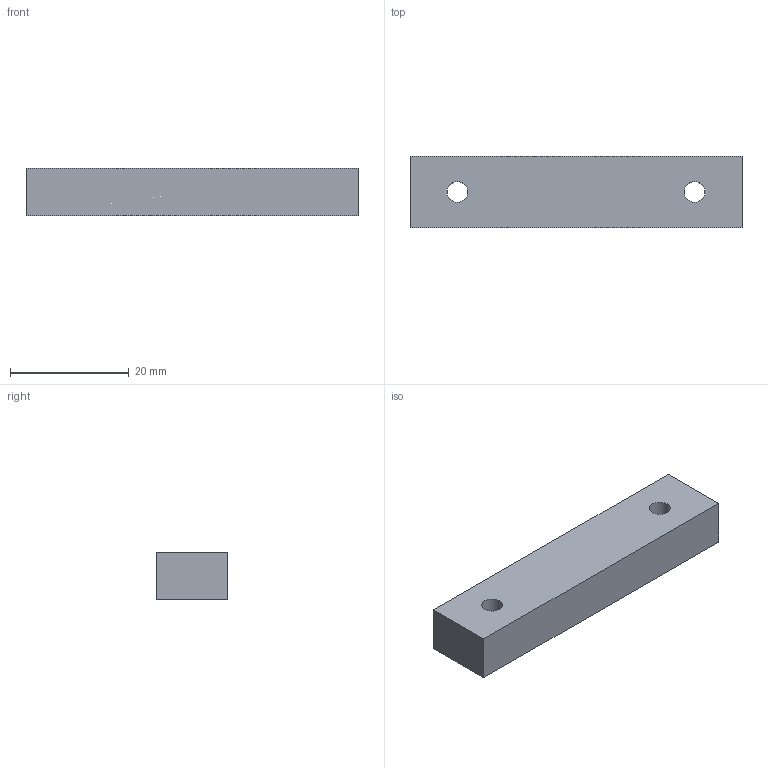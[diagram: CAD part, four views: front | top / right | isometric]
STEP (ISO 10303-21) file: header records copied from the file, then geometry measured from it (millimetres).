
FILE_DESCRIPTION(('Open CASCADE Model'),'2;1');
FILE_NAME('Open CASCADE Shape Model','2026-10-15T18:22:09',('Author'),( 'Open CASCADE'),'Open CASCADE STEP processor 7.9','Open CASCADE 7.9' ,'Unknown');
FILE_SCHEMA(('AUTOMOTIVE_DESIGN { 1 0 10303 214 1 1 1 1 }'));
Length unit declared in the file: millimetre
Products named in the file (1): Open CASCADE STEP translator 7.9 20
Bounding box: 56 x 12 x 8 mm (x, y, z)
Volume: 5222.1 mm3; surface area: 2569.4 mm2
Topology: 1 solids, 1 shells, 8 faces, 18 edges, 12 vertices
Faces by surface type: plane 6, cylinder 2
Full cylindrical faces by diameter (mm): 3.5 x2
Entity records: 478 total; most frequent: DIRECTION 76, CARTESIAN_POINT 75, LINE 46, VECTOR 46, ORIENTED_EDGE 36, PCURVE 36, DEFINITIONAL_REPRESENTATION 36, EDGE_CURVE 18
